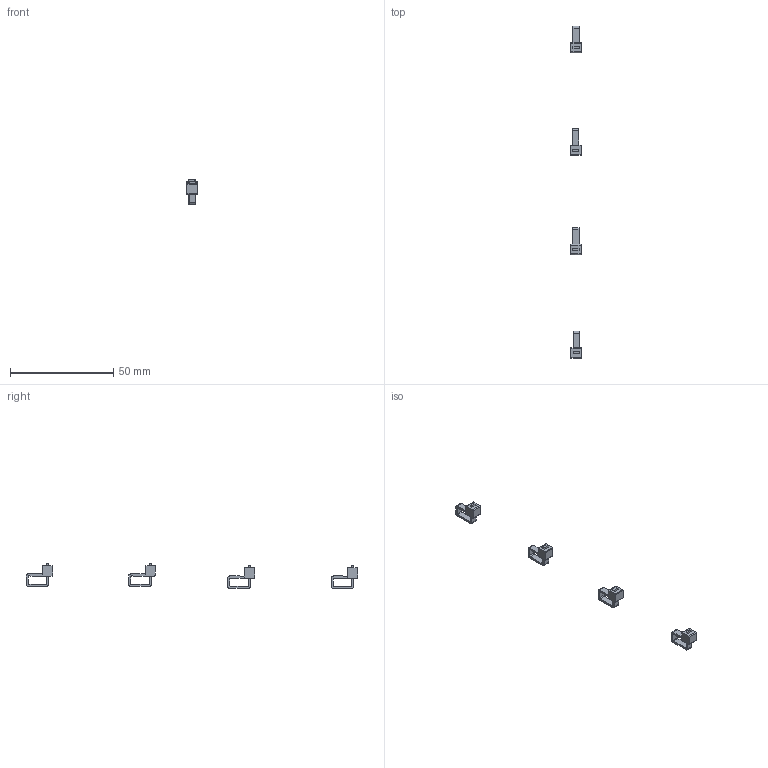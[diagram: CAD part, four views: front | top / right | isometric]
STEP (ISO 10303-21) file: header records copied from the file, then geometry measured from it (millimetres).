
FILE_DESCRIPTION(/* description */ (''),/* implementation_level */ '2;1');
FILE_NAME(/* name */ '9.electronics#9.3#la-zip',/* time_stamp */ '2014-12-01T20:18:49+01:00',/* author */ (''),/* organization */ (''),/* preprocessor_version */ 'ST-DEVELOPER v14',/* originating_system */ '',/* authorisation */ '');
FILE_SCHEMA (('AUTOMOTIVE_DESIGN'));
Length unit declared in the file: millimetre
Products named in the file (1): Document
Bounding box: 5.11 x 160.79 x 12 mm (x, y, z)
Volume: 827.5 mm3; surface area: 1434.9 mm2
Topology: 4 solids, 4 shells, 120 faces, 328 edges, 216 vertices
Faces by surface type: bspline 96, plane 24
Entity records: 7029 total; most frequent: CARTESIAN_POINT 3218, ORIENTED_EDGE 656, PCURVE 656, DEFINITIONAL_REPRESENTATION 656, B_SPLINE_CURVE_WITH_KNOTS 456, SURFACE_CURVE 328, EDGE_CURVE 328, VERTEX_POINT 216
